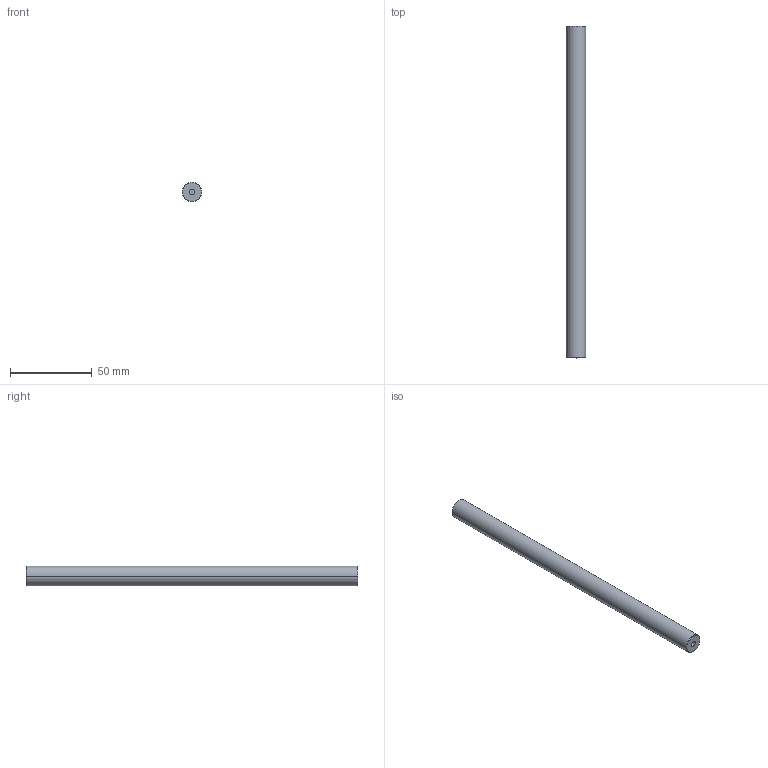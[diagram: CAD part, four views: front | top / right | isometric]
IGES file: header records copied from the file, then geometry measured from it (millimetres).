
Start section:  PTC IGES file: pole_203_2.igs
Global section: file name: pole_203_2.igs; native system: Creo Elements/Pro by Parametric Technology Corporation; preprocessor: 2010480; author: asus; organization: Unknown; date: 20121101.190901; units: millimetre
Bounding box: 12 x 203.2 x 12 mm (x, y, z)
Volume: 22807 mm3; surface area: 8080.5 mm2
Topology: 1 solids, 1 shells, 14 faces, 26 edges, 16 vertices
Faces by surface type: revolution 10, bspline 4
